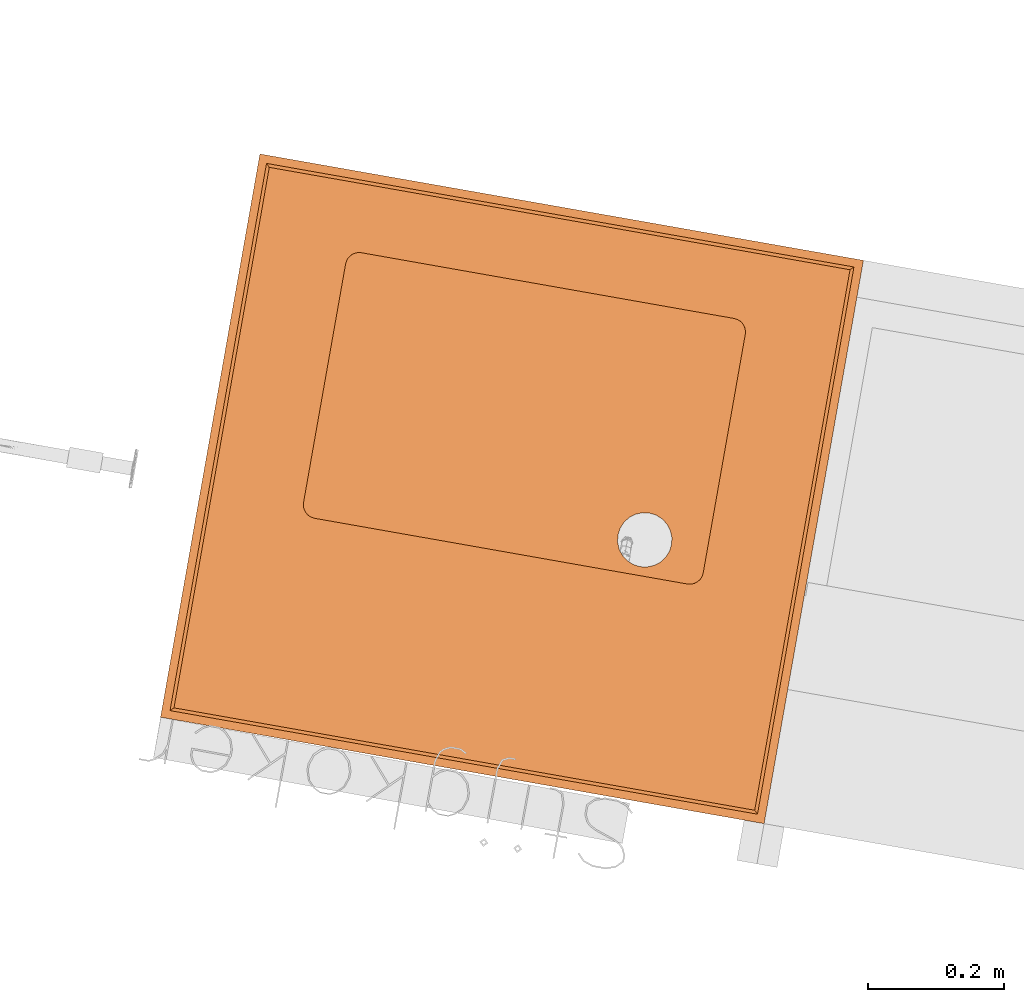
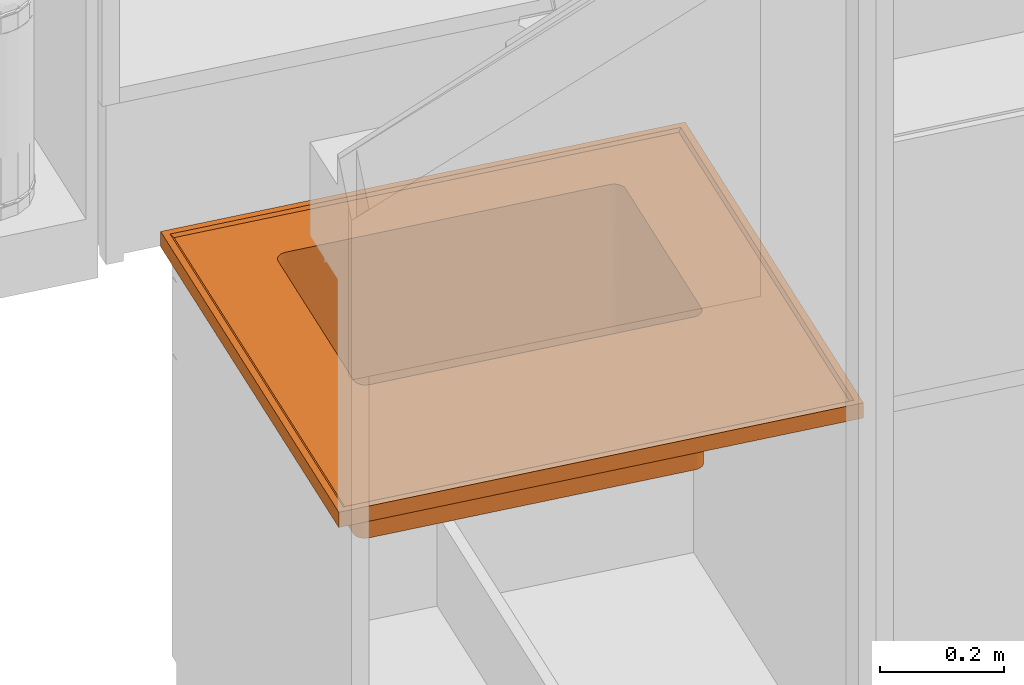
# One storey, part 34 of 43: 1 proxy.
"""IFC2X3 building model written with IfcOpenShell, lengths in metres."""

from ifc_helpers import new_model, entity, si_unit, converted_unit, derived_unit, direction, frame, origin, place, context, subcontext, project, spatial, faceted_brep, source, transform, mapped, material, type_object, type_shapes, element, save


model = new_model("IFC2X3")

# Units and contexts
model_context = context("Model", 3, precision=1e-05, world=origin(), true_north=direction((6.12303176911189e-17, 1.0)))
body_context = subcontext(model_context, "Body", "Model", "MODEL_VIEW")
ifc_project = project(units=[si_unit("LENGTHUNIT", "METRE"), si_unit("AREAUNIT", "SQUARE_METRE"), si_unit("VOLUMEUNIT", "CUBIC_METRE"), converted_unit("PLANEANGLEUNIT", "DEGREE", entity("IfcRatioMeasure", 0.0174532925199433), si_unit("PLANEANGLEUNIT", "RADIAN"), dimensions=[0, 0, 0, 0, 0, 0, 0]), si_unit("MASSUNIT", "GRAM", prefix="KILO"), derived_unit("MASSDENSITYUNIT", [(si_unit("MASSUNIT", "GRAM", prefix="KILO"), 1), (si_unit("LENGTHUNIT", "METRE"), -3)]), derived_unit("MOMENTOFINERTIAUNIT", [(si_unit("LENGTHUNIT", "METRE"), 4)]), si_unit("TIMEUNIT", "SECOND"), si_unit("FREQUENCYUNIT", "HERTZ"), si_unit("THERMODYNAMICTEMPERATUREUNIT", "DEGREE_CELSIUS"), derived_unit("THERMALTRANSMITTANCEUNIT", [(si_unit("MASSUNIT", "GRAM", prefix="KILO"), 1), (si_unit("THERMODYNAMICTEMPERATUREUNIT", "KELVIN"), -1), (si_unit("TIMEUNIT", "SECOND"), -3)]), derived_unit("VOLUMETRICFLOWRATEUNIT", [(si_unit("LENGTHUNIT", "METRE"), 3), (si_unit("TIMEUNIT", "SECOND"), -1)]), si_unit("ELECTRICCURRENTUNIT", "AMPERE"), si_unit("ELECTRICVOLTAGEUNIT", "VOLT"), si_unit("POWERUNIT", "WATT"), si_unit("FORCEUNIT", "NEWTON", prefix="KILO"), si_unit("ILLUMINANCEUNIT", "LUX"), si_unit("LUMINOUSFLUXUNIT", "LUMEN"), si_unit("LUMINOUSINTENSITYUNIT", "CANDELA"), derived_unit("USERDEFINED", [(si_unit("MASSUNIT", "GRAM", prefix="KILO"), -1), (si_unit("LENGTHUNIT", "METRE"), -2), (si_unit("TIMEUNIT", "SECOND"), 3), (si_unit("LUMINOUSFLUXUNIT", "LUMEN"), 1)]), derived_unit("LINEARVELOCITYUNIT", [(si_unit("LENGTHUNIT", "METRE"), 1), (si_unit("TIMEUNIT", "SECOND"), -1)]), si_unit("PRESSUREUNIT", "PASCAL"), derived_unit("USERDEFINED", [(si_unit("LENGTHUNIT", "METRE"), -2), (si_unit("MASSUNIT", "GRAM", prefix="KILO"), 1), (si_unit("TIMEUNIT", "SECOND"), -2)]), derived_unit("LINEARFORCEUNIT", [(si_unit("MASSUNIT", "GRAM", prefix="KILO"), 1), (si_unit("LENGTHUNIT", "METRE"), 1), (si_unit("TIMEUNIT", "SECOND"), -2), (si_unit("LENGTHUNIT", "METRE"), -1)]), derived_unit("PLANARFORCEUNIT", [(si_unit("MASSUNIT", "GRAM", prefix="KILO"), 1), (si_unit("LENGTHUNIT", "METRE"), 1), (si_unit("TIMEUNIT", "SECOND"), -2), (si_unit("LENGTHUNIT", "METRE"), -2)])], contexts=[model_context])

# Site, building, storey
site_placement = place(None, origin())
site = spatial("IfcSite", under=ifc_project, at=site_placement, Name="Default", CompositionType="ELEMENT")
building_placement = place(site_placement, origin())
building = spatial("IfcBuilding", under=site, at=building_placement, CompositionType="ELEMENT")
storey_placement = place(building_placement, frame((0.0, 0.0, 3.0)))
storey = spatial("IfcBuildingStorey", under=building, at=storey_placement, Name="01 OG", CompositionType="ELEMENT", Elevation=3.0)

# Proxy
ifc_material = material(Name="Steinzeug")
building_element_proxy_type = type_object("IfcBuildingElementProxyType", Name="dh_Tischplatte Steinzeug Becken:dh_Tischplatte Steinzeug Becken", PredefinedType="NOTDEFINED", material=ifc_material)
shared_shape = source(origin(), body_context, "Body", "Brep", [
    faceted_brep([(0.150681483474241, 0.50017638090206, 0.0), (0.155857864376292, 0.50914213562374, 0.0), (0.160000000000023, 0.512320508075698, 0.0), (0.152679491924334, 0.505000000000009, 0.0), (0.150000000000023, 0.495000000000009, 0.0), (0.164823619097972, 0.514318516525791, 0.0), (0.170000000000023, 0.515000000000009, 0.0), (0.206362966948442, 0.470352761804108, 0.0), (0.210358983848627, 0.480000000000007, 0.0), (0.216715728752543, 0.488284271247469, 0.0), (0.225000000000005, 0.494641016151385, 0.0), (0.234647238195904, 0.49863703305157, 0.0), (0.245000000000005, 0.500000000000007, 0.0), (0.255352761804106, 0.49863703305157, 0.0), (0.730000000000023, 0.515000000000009, 0.0), (0.265000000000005, 0.494641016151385, 0.0), (0.273284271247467, 0.488284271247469, 0.0), (0.279641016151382, 0.480000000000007, 0.0), (0.283637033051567, 0.470352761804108, 0.0), (0.285000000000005, 0.460000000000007, 0.0), (0.283637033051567, 0.449647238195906, 0.0), (0.279641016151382, 0.440000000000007, 0.0), (0.730000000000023, 0.11500000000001, 0.0), (0.750000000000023, 0.13500000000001, 0.0), (0.750000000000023, 0.495000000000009, 0.0), (0.735176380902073, 0.514318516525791, 0.0), (0.740000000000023, 0.512320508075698, 0.0), (0.749318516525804, 0.50017638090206, 0.0), (0.744142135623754, 0.50914213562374, 0.0), (0.747320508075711, 0.505000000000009, 0.0), (0.735176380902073, 0.115681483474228, 0.0), (0.740000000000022, 0.117679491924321, 0.0), (0.749318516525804, 0.129823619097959, 0.0), (0.744142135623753, 0.120857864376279, 0.0), (0.747320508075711, 0.125000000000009, 0.0), (0.273284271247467, 0.431715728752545, 0.0), (0.170000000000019, 0.115000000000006, 0.0), (0.265000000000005, 0.42535898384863, 0.0), (0.255352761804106, 0.421362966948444, 0.0), (0.150000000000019, 0.135000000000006, 0.0), (0.164823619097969, 0.115681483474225, 0.0), (0.160000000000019, 0.117679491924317, 0.0), (0.150681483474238, 0.129823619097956, 0.0), (0.155857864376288, 0.120857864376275, 0.0), (0.152679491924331, 0.125000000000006, 0.0), (0.210358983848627, 0.440000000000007, 0.0), (0.216715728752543, 0.431715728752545, 0.0), (0.225000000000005, 0.42535898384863, 0.0), (0.234647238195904, 0.421362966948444, 0.0), (0.245000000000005, 0.420000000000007, 0.0), (0.205000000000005, 0.460000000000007, 0.0), (0.206362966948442, 0.449647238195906, 0.0), (0.7453205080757, 0.503000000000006, 0.3), (0.747320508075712, 0.505000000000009, 0.3), (0.742142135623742, 0.507142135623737, 0.3), (0.749318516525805, 0.50017638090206, 0.3), (0.747318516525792, 0.498176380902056, 0.3), (0.750000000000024, 0.495000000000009, 0.3), (0.748000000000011, 0.493000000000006, 0.3), (0.748000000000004, 0.137000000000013, 0.3), (0.750000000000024, 0.13500000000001, 0.3), (0.747318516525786, 0.131823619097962, 0.3), (0.749318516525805, 0.129823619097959, 0.3), (0.745320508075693, 0.127000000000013, 0.3), (0.747320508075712, 0.125000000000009, 0.3), (0.742142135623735, 0.122857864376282, 0.3), (0.744142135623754, 0.120857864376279, 0.3), (0.740000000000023, 0.117679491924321, 0.3), (0.738000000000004, 0.119679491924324, 0.3), (0.735176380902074, 0.115681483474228, 0.3), (0.733176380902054, 0.117681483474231, 0.3), (0.730000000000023, 0.11500000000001, 0.3), (0.728000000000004, 0.117000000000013, 0.3), (0.172000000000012, 0.117000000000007, 0.300000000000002), (0.17000000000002, 0.115000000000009, 0.300000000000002), (0.166823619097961, 0.117681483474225, 0.300000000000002), (0.16482361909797, 0.115681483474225, 0.300000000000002), (0.162000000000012, 0.119679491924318, 0.300000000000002), (0.16000000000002, 0.117679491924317, 0.300000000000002), (0.157857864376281, 0.122857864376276, 0.300000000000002), (0.155857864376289, 0.120857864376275, 0.300000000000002), (0.152679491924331, 0.125000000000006, 0.300000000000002), (0.154679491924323, 0.127000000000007, 0.300000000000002), (0.150681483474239, 0.129823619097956, 0.300000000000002), (0.15268148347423, 0.131823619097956, 0.300000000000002), (0.15000000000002, 0.135000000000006, 0.300000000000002), (0.152000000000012, 0.137000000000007, 0.300000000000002), (0.150000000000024, 0.495000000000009, 0.300000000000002), (0.152000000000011, 0.493000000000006, 0.300000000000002), (0.15268148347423, 0.498176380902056, 0.300000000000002), (0.150681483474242, 0.50017638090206, 0.300000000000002), (0.154679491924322, 0.503000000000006, 0.300000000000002), (0.152679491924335, 0.505000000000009, 0.300000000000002), (0.15785786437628, 0.507142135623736, 0.300000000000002), (0.155857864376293, 0.50914213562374, 0.300000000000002), (0.160000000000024, 0.512320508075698, 0.300000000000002), (0.162000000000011, 0.510320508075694, 0.300000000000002), (0.164823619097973, 0.514318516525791, 0.300000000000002), (0.16682361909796, 0.512318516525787, 0.300000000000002), (0.170000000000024, 0.515000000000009, 0.300000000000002), (0.172000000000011, 0.513000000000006, 0.300000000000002), (0.730000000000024, 0.515000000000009, 0.3), (0.728000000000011, 0.513000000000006, 0.3), (0.733176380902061, 0.512318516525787, 0.3), (0.735176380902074, 0.514318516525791, 0.3), (0.738000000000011, 0.510320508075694, 0.3), (0.740000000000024, 0.512320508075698, 0.3), (0.744142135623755, 0.50914213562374, 0.3), (0.730000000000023, 0.515000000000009, 0.15000042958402), (0.170000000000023, 0.515000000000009, 0.150000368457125), (0.150000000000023, 0.49500000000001, 0.150000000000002), (0.15000000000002, 0.135000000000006, 0.150000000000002), (0.17000000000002, 0.115000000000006, 0.150000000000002), (0.730000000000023, 0.11500000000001, 0.15), (0.750000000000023, 0.135000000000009, 0.15), (0.750000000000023, 0.495000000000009, 0.15), (0.16200000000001, 0.510320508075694, 0.00500000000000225), (0.157857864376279, 0.507142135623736, 0.00500000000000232), (0.152681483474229, 0.498176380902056, 0.00500000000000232), (0.15200000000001, 0.493000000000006, 0.00500000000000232), (0.16682361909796, 0.512318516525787, 0.00500000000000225), (0.154679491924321, 0.503000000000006, 0.00500000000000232), (0.17200000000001, 0.513000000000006, 0.00500000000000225), (0.206362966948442, 0.470352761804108, 0.00500000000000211), (0.205000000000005, 0.460000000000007, 0.00500000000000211), (0.206362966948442, 0.449647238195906, 0.00500000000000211), (0.210358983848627, 0.440000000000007, 0.00500000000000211), (0.152000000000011, 0.137000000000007, 0.00500000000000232), (0.216715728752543, 0.431715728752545, 0.00500000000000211), (0.225000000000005, 0.42535898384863, 0.00500000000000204), (0.234647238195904, 0.421362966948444, 0.00500000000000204), (0.245000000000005, 0.420000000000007, 0.00500000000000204), (0.255352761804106, 0.421362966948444, 0.00500000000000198), (0.172000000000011, 0.117000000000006, 0.00500000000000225), (0.16682361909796, 0.117681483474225, 0.00500000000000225), (0.162000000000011, 0.119679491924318, 0.00500000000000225), (0.152681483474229, 0.131823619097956, 0.00500000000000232), (0.15785786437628, 0.122857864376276, 0.00500000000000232), (0.154679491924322, 0.127000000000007, 0.00500000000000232), (0.265000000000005, 0.42535898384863, 0.00500000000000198), (0.273284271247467, 0.431715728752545, 0.00500000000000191), (0.728000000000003, 0.117000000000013, 0.00500000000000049), (0.279641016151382, 0.440000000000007, 0.00500000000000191), (0.72800000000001, 0.513000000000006, 0.00500000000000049), (0.74800000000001, 0.137000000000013, 0.00500000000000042), (0.733176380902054, 0.117681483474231, 0.00500000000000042), (0.738000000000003, 0.119679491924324, 0.00500000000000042), (0.747318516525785, 0.131823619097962, 0.00500000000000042), (0.742142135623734, 0.122857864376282, 0.00500000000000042), (0.745320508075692, 0.127000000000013, 0.00500000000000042), (0.74800000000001, 0.493000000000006, 0.00500000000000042), (0.733176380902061, 0.512318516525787, 0.00500000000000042), (0.73800000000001, 0.510320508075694, 0.00500000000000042), (0.747318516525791, 0.498176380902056, 0.00500000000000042), (0.742142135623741, 0.507142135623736, 0.00500000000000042), (0.745320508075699, 0.503000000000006, 0.00500000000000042), (0.255352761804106, 0.49863703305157, 0.00500000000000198), (0.265000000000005, 0.494641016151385, 0.00500000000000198), (0.273284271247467, 0.488284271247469, 0.00500000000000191), (0.279641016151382, 0.480000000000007, 0.00500000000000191), (0.283637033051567, 0.470352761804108, 0.00500000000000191), (0.285000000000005, 0.460000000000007, 0.00500000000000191), (0.283637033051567, 0.449647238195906, 0.00500000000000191), (0.210358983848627, 0.480000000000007, 0.00500000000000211), (0.216715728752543, 0.488284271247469, 0.00500000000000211), (0.225000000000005, 0.494641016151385, 0.00500000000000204), (0.234647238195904, 0.49863703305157, 0.00500000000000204), (0.245000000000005, 0.500000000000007, 0.00500000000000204), (0.172000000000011, 0.513000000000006, 0.152499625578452), (0.728000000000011, 0.513000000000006, 0.1525), (0.152000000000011, 0.137000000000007, 0.152500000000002), (0.15200000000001, 0.493000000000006, 0.152500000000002), (0.728000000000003, 0.117000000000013, 0.1525), (0.172000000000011, 0.117000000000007, 0.152500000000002), (0.74800000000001, 0.493000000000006, 0.1525), (0.748000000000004, 0.137000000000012, 0.1525), (0.164346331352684, 0.511477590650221, 0.152499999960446), (0.153522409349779, 0.500653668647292, 0.152499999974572), (0.152384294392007, 0.496901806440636, 0.18766218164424), (0.168098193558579, 0.51261570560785, 0.117337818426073), (0.159824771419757, 0.50886706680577, 0.136631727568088), (0.156132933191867, 0.505175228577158, 0.168368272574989), (0.15352240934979, 0.129346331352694, 0.15249999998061), (0.164346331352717, 0.118522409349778, 0.152499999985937), (0.168098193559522, 0.117384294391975, 0.187662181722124), (0.152384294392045, 0.133098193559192, 0.117337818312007), (0.156132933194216, 0.124824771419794, 0.136631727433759), (0.159824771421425, 0.121132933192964, 0.168368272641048), (0.735653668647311, 0.11852240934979, 0.152499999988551), (0.746477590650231, 0.129346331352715, 0.1524999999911), (0.747615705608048, 0.133098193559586, 0.187662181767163), (0.731901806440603, 0.117384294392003, 0.117337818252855), (0.740175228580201, 0.121132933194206, 0.136631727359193), (0.743867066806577, 0.124824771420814, 0.168368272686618), (0.746477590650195, 0.500653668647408, 0.152499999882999), (0.735653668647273, 0.511477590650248, 0.152499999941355), (0.731901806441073, 0.512615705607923, 0.187662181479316), (0.747615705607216, 0.496901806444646, 0.117337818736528), (0.743867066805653, 0.505175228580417, 0.136631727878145), (0.740175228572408, 0.508867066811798, 0.168368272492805), (0.162346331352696, 0.513477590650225, 0.149999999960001), (0.150384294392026, 0.498901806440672, 0.187055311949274), (0.151522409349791, 0.502653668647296, 0.14999999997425), (0.16609819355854, 0.514615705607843, 0.112944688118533), (0.157824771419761, 0.510867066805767, 0.13191703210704), (0.154132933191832, 0.5071752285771, 0.16808296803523), (0.151522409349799, 0.127346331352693, 0.149999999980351), (0.166098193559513, 0.115384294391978, 0.187055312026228), (0.162346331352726, 0.116522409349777, 0.149999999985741), (0.150384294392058, 0.131098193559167, 0.112944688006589), (0.154132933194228, 0.122824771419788, 0.13191703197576), (0.157824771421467, 0.119132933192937, 0.16808296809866), (0.737653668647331, 0.116522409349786, 0.149999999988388), (0.749615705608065, 0.131098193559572, 0.187055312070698), (0.748477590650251, 0.127346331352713, 0.14999999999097), (0.733901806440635, 0.115384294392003, 0.112944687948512), (0.742175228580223, 0.119132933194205, 0.131917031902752), (0.745867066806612, 0.122824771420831, 0.168082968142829), (0.748477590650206, 0.502653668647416, 0.149999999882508), (0.733901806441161, 0.514615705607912, 0.187055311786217), (0.737653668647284, 0.513477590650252, 0.149999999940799), (0.749615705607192, 0.498901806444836, 0.112944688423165), (0.745867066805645, 0.507175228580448, 0.131917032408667), (0.742175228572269, 0.510867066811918, 0.168082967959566)], [[[0, 1, 2]], [[0, 3, 1]], [[0, 2, 4]], [[4, 2, 5]], [[5, 6, 4]], [[6, 7, 4]], [[8, 7, 6]], [[8, 6, 9]], [[10, 9, 6]], [[6, 11, 10]], [[6, 12, 11]], [[12, 6, 13]], [[13, 6, 14]], [[15, 13, 14]], [[16, 15, 14]], [[16, 14, 17]], [[18, 17, 14]], [[19, 18, 14]], [[19, 14, 20]], [[20, 14, 21]], [[22, 21, 14]], [[23, 22, 14]], [[23, 14, 24]], [[24, 14, 25]], [[24, 25, 26]], [[24, 26, 27]], [[27, 26, 28]], [[28, 29, 27]], [[22, 23, 30]], [[31, 30, 23]], [[32, 31, 23]], [[33, 31, 32]], [[33, 32, 34]], [[35, 21, 22]], [[22, 36, 35]], [[35, 36, 37]], [[37, 36, 38]], [[39, 38, 36]], [[39, 36, 40]], [[41, 39, 40]], [[41, 42, 39]], [[42, 41, 43]], [[42, 43, 44]], [[39, 4, 45]], [[46, 39, 45]], [[39, 46, 47]], [[47, 48, 39]], [[49, 39, 48]], [[38, 39, 49]], [[4, 7, 50]], [[4, 50, 51]], [[4, 51, 45]], [[52, 53, 54]], [[53, 52, 55]], [[55, 52, 56]], [[57, 55, 56]], [[56, 58, 57]], [[57, 58, 59]], [[59, 60, 57]], [[60, 59, 61]], [[60, 61, 62]], [[62, 61, 63]], [[64, 62, 63]], [[65, 64, 63]], [[64, 65, 66]], [[65, 67, 66]], [[65, 68, 67]], [[67, 68, 69]], [[68, 70, 69]], [[71, 69, 70]], [[72, 71, 70]], [[71, 72, 73]], [[73, 74, 71]], [[73, 75, 74]], [[74, 75, 76]], [[75, 77, 76]], [[77, 78, 76]], [[77, 79, 78]], [[79, 80, 78]], [[79, 81, 80]], [[81, 79, 82]], [[83, 81, 82]], [[82, 84, 83]], [[84, 85, 83]], [[84, 86, 85]], [[85, 86, 87]], [[88, 87, 86]], [[88, 89, 87]], [[90, 87, 89]], [[89, 91, 90]], [[91, 92, 90]], [[92, 91, 93]], [[92, 93, 94]], [[93, 95, 94]], [[95, 93, 96]], [[97, 95, 96]], [[98, 97, 96]], [[98, 99, 97]], [[98, 100, 99]], [[99, 100, 101]], [[102, 101, 100]], [[103, 101, 102]], [[103, 104, 101]], [[104, 103, 105]], [[54, 106, 105]], [[105, 106, 104]], [[54, 53, 107]], [[106, 54, 107]], [[99, 101, 108, 14, 6, 109]], [[87, 110, 4, 39, 111, 85]], [[74, 112, 36, 22, 113, 71]], [[60, 114, 23, 24, 115, 57]], [[116, 117, 118]], [[119, 116, 118]], [[120, 116, 119]], [[117, 121, 118]], [[119, 122, 120]], [[119, 123, 122]], [[124, 123, 119]], [[125, 124, 119]], [[126, 125, 119]], [[126, 119, 127]], [[126, 127, 128]], [[129, 128, 127]], [[127, 130, 129]], [[130, 127, 131]], [[131, 127, 132]], [[133, 132, 127]], [[134, 133, 127]], [[134, 127, 135]], [[127, 136, 135]], [[137, 135, 136]], [[138, 137, 136]], [[132, 133, 139]], [[139, 133, 140]], [[140, 133, 141]], [[141, 142, 140]], [[143, 142, 141]], [[143, 141, 144]], [[145, 144, 141]], [[144, 145, 146]], [[144, 146, 147]], [[147, 146, 148]], [[149, 147, 148]], [[150, 143, 144]], [[151, 143, 150]], [[152, 151, 150]], [[153, 152, 150]], [[154, 152, 153]], [[153, 155, 154]], [[143, 122, 156]], [[143, 156, 157]], [[143, 157, 158]], [[159, 143, 158]], [[143, 159, 160]], [[143, 160, 161]], [[162, 143, 161]], [[142, 143, 162]], [[122, 123, 163]], [[164, 122, 163]], [[122, 164, 165]], [[165, 166, 122]], [[166, 167, 122]], [[156, 122, 167]], [[100, 168, 122, 143, 169, 102]], [[86, 170, 127, 119, 171, 88]], [[72, 172, 141, 133, 173, 73]], [[58, 174, 150, 144, 175, 59]], [[19, 161, 160, 18]], [[18, 160, 159, 17]], [[15, 16, 158, 157]], [[158, 16, 17, 159]], [[13, 15, 157, 156]], [[13, 156, 167, 12]], [[12, 167, 166, 11]], [[11, 166, 165, 10]], [[8, 9, 164, 163]], [[164, 9, 10, 165]], [[7, 8, 163, 123]], [[7, 123, 124, 50]], [[50, 124, 125, 51]], [[51, 125, 126, 45]], [[47, 46, 128, 129]], [[128, 46, 45, 126]], [[48, 47, 129, 130]], [[48, 130, 131, 49]], [[49, 131, 132, 38]], [[38, 132, 139, 37]], [[21, 35, 140, 142]], [[140, 35, 37, 139]], [[20, 21, 142, 162]], [[20, 162, 161, 19]], [[116, 120, 176]], [[177, 178, 118]], [[168, 179, 122]], [[116, 176, 180]], [[180, 117, 116]], [[176, 120, 179]], [[89, 88, 178]], [[100, 98, 168]], [[176, 98, 96]], [[122, 179, 120]], [[180, 176, 96]], [[171, 178, 88]], [[118, 121, 177]], [[117, 180, 181]], [[181, 180, 93]], [[171, 119, 118]], [[181, 121, 117]], [[91, 177, 181]], [[98, 179, 168]], [[91, 89, 177]], [[89, 178, 177]], [[93, 180, 96]], [[118, 178, 171]], [[181, 177, 121]], [[176, 179, 98]], [[93, 91, 181]], [[138, 136, 182]], [[183, 184, 134]], [[170, 185, 127]], [[138, 182, 186]], [[186, 137, 138]], [[182, 136, 185]], [[75, 73, 184]], [[86, 84, 170]], [[182, 84, 82]], [[127, 185, 136]], [[186, 182, 82]], [[173, 184, 73]], [[134, 135, 183]], [[137, 186, 187]], [[187, 186, 79]], [[173, 133, 134]], [[187, 135, 137]], [[77, 183, 187]], [[84, 185, 170]], [[77, 75, 183]], [[75, 184, 183]], [[79, 186, 82]], [[134, 184, 173]], [[187, 183, 135]], [[182, 185, 84]], [[79, 77, 187]], [[146, 145, 188]], [[189, 190, 147]], [[172, 191, 141]], [[146, 188, 192]], [[192, 148, 146]], [[188, 145, 191]], [[61, 59, 190]], [[72, 70, 172]], [[188, 70, 68]], [[141, 191, 145]], [[192, 188, 68]], [[175, 190, 59]], [[147, 149, 189]], [[148, 192, 193]], [[193, 192, 65]], [[175, 144, 147]], [[193, 149, 148]], [[63, 189, 193]], [[70, 191, 172]], [[63, 61, 189]], [[61, 190, 189]], [[65, 192, 68]], [[147, 190, 175]], [[193, 189, 149]], [[188, 191, 70]], [[65, 63, 193]], [[155, 153, 194]], [[195, 196, 151]], [[174, 197, 150]], [[155, 194, 198]], [[198, 154, 155]], [[194, 153, 197]], [[103, 102, 196]], [[58, 56, 174]], [[194, 56, 52]], [[150, 197, 153]], [[198, 194, 52]], [[169, 196, 102]], [[151, 152, 195]], [[154, 198, 199]], [[199, 198, 54]], [[169, 143, 151]], [[199, 152, 154]], [[105, 195, 199]], [[56, 197, 174]], [[105, 103, 195]], [[103, 196, 195]], [[54, 198, 52]], [[151, 196, 169]], [[199, 195, 152]], [[194, 197, 56]], [[54, 105, 199]], [[200, 5, 2]], [[0, 201, 202]], [[6, 203, 109]], [[204, 200, 2]], [[2, 1, 204]], [[203, 5, 200]], [[201, 87, 90]], [[109, 97, 99]], [[95, 97, 200]], [[5, 203, 6]], [[95, 200, 204]], [[87, 201, 110]], [[202, 3, 0]], [[205, 204, 1]], [[94, 204, 205]], [[0, 4, 110]], [[1, 3, 205]], [[205, 202, 92]], [[109, 203, 97]], [[202, 90, 92]], [[202, 201, 90]], [[95, 204, 94]], [[110, 201, 0]], [[3, 202, 205]], [[97, 203, 200]], [[205, 92, 94]], [[206, 42, 44]], [[40, 207, 208]], [[39, 209, 111]], [[210, 206, 44]], [[44, 43, 210]], [[209, 42, 206]], [[207, 74, 76]], [[111, 83, 85]], [[81, 83, 206]], [[42, 209, 39]], [[81, 206, 210]], [[74, 207, 112]], [[208, 41, 40]], [[211, 210, 43]], [[80, 210, 211]], [[40, 36, 112]], [[43, 41, 211]], [[211, 208, 78]], [[111, 209, 83]], [[208, 76, 78]], [[208, 207, 76]], [[81, 210, 80]], [[112, 207, 40]], [[41, 208, 211]], [[83, 209, 206]], [[211, 78, 80]], [[212, 30, 31]], [[32, 213, 214]], [[22, 215, 113]], [[216, 212, 31]], [[31, 33, 216]], [[215, 30, 212]], [[213, 60, 62]], [[113, 69, 71]], [[67, 69, 212]], [[30, 215, 22]], [[67, 212, 216]], [[60, 213, 114]], [[214, 34, 32]], [[217, 216, 33]], [[66, 216, 217]], [[32, 23, 114]], [[33, 34, 217]], [[217, 214, 64]], [[113, 215, 69]], [[214, 62, 64]], [[214, 213, 62]], [[67, 216, 66]], [[114, 213, 32]], [[34, 214, 217]], [[69, 215, 212]], [[217, 64, 66]], [[218, 27, 29]], [[25, 219, 220]], [[24, 221, 115]], [[222, 218, 29]], [[29, 28, 222]], [[221, 27, 218]], [[219, 101, 104]], [[115, 55, 57]], [[53, 55, 218]], [[27, 221, 24]], [[53, 218, 222]], [[101, 219, 108]], [[220, 26, 25]], [[223, 222, 28]], [[107, 222, 223]], [[25, 14, 108]], [[28, 26, 223]], [[223, 220, 106]], [[115, 221, 55]], [[220, 104, 106]], [[220, 219, 104]], [[53, 222, 107]], [[108, 219, 25]], [[26, 220, 223]], [[55, 221, 218]], [[223, 106, 107]]]),
    faceted_brep([(0.883000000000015, 0.823000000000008, 0.3), (0.745320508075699, 0.503000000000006, 0.3), (0.747318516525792, 0.498176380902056, 0.3), (0.742142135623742, 0.507142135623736, 0.300000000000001), (0.748000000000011, 0.493000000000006, 0.3), (0.883000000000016, 0.017000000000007, 0.3), (0.738000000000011, 0.510320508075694, 0.300000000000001), (0.733176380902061, 0.512318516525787, 0.300000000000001), (0.728000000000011, 0.513000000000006, 0.300000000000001), (0.172000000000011, 0.513000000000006, 0.300000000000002), (0.0170000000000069, 0.823000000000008, 0.300000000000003), (0.16682361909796, 0.512318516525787, 0.300000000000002), (0.162000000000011, 0.510320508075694, 0.300000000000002), (0.15785786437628, 0.507142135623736, 0.300000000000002), (0.154679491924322, 0.503000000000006, 0.300000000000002), (0.15268148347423, 0.498176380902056, 0.300000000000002), (0.152000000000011, 0.493000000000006, 0.300000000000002), (0.017000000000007, 0.017000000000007, 0.300000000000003), (0.152000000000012, 0.137000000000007, 0.300000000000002), (0.15268148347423, 0.131823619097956, 0.300000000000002), (0.154679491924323, 0.127000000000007, 0.300000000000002), (0.157857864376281, 0.122857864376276, 0.300000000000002), (0.162000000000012, 0.119679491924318, 0.300000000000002), (0.166823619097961, 0.117681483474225, 0.300000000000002), (0.172000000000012, 0.117000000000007, 0.300000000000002), (0.748000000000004, 0.137000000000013, 0.3), (0.747318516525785, 0.131823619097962, 0.3), (0.745320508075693, 0.127000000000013, 0.3), (0.742142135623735, 0.122857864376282, 0.300000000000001), (0.738000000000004, 0.119679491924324, 0.300000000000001), (0.733176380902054, 0.117681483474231, 0.300000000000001), (0.728000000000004, 0.117000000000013, 0.300000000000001), (0.0, 0.840000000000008, 0.275000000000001), (0.154679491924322, 0.503000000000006, 0.275000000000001), (0.152681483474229, 0.498176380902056, 0.275000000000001), (0.15785786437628, 0.507142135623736, 0.275000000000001), (0.152000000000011, 0.493000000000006, 0.275000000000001), (0.0, 0.0, 0.275000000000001), (0.162000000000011, 0.510320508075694, 0.275000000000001), (0.16682361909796, 0.512318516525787, 0.275000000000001), (0.172000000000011, 0.513000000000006, 0.275000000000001), (0.728000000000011, 0.513000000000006, 0.274999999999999), (0.900000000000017, 0.840000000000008, 0.274999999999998), (0.733176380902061, 0.512318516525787, 0.274999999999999), (0.738000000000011, 0.510320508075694, 0.274999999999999), (0.742142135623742, 0.507142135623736, 0.274999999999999), (0.745320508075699, 0.503000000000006, 0.274999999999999), (0.747318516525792, 0.498176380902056, 0.274999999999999), (0.748000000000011, 0.493000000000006, 0.274999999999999), (0.900000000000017, 0.0, 0.274999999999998), (0.748000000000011, 0.137000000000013, 0.274999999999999), (0.747318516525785, 0.131823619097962, 0.274999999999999), (0.745320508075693, 0.127000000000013, 0.274999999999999), (0.742142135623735, 0.122857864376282, 0.274999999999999), (0.738000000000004, 0.119679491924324, 0.274999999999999), (0.733176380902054, 0.117681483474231, 0.274999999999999), (0.728000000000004, 0.117000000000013, 0.274999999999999), (0.152000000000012, 0.137000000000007, 0.275000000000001), (0.15268148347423, 0.131823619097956, 0.275000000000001), (0.154679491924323, 0.127000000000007, 0.275000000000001), (0.157857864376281, 0.122857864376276, 0.275000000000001), (0.162000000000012, 0.119679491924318, 0.275000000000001), (0.166823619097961, 0.117681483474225, 0.275000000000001), (0.172000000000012, 0.117000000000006, 0.275000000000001), (0.0, 0.840000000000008, 0.305000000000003), (0.900000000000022, 0.840000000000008, 0.305), (0.0, 0.0, 0.305000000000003), (0.900000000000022, 0.0, 0.305), (0.0120000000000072, 0.828000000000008, 0.305000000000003), (0.888000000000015, 0.828000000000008, 0.305), (0.888000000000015, 0.0120000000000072, 0.305), (0.0120000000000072, 0.012000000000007, 0.305000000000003)], [[[0, 1, 2]], [[1, 0, 3]], [[2, 4, 0]], [[0, 4, 5]], [[6, 3, 0]], [[7, 6, 0]], [[8, 7, 0]], [[0, 9, 8]], [[9, 0, 10]], [[11, 9, 10]], [[11, 10, 12]], [[13, 12, 10]], [[10, 14, 13]], [[14, 10, 15]], [[16, 15, 10]], [[10, 17, 16]], [[18, 16, 17]], [[19, 18, 17]], [[17, 20, 19]], [[20, 17, 21]], [[22, 21, 17]], [[22, 17, 23]], [[24, 23, 17]], [[24, 17, 5]], [[25, 5, 4]], [[25, 26, 5]], [[27, 5, 26]], [[5, 27, 28]], [[28, 29, 5]], [[29, 30, 5]], [[30, 31, 5]], [[5, 31, 24]], [[32, 33, 34]], [[33, 32, 35]], [[34, 36, 32]], [[32, 36, 37]], [[38, 35, 32]], [[39, 38, 32]], [[40, 39, 32]], [[32, 41, 40]], [[41, 32, 42]], [[43, 41, 42]], [[43, 42, 44]], [[45, 44, 42]], [[42, 46, 45]], [[46, 42, 47]], [[48, 47, 42]], [[42, 49, 48]], [[50, 48, 49]], [[51, 50, 49]], [[49, 52, 51]], [[52, 49, 53]], [[54, 53, 49]], [[54, 49, 55]], [[56, 55, 49]], [[56, 49, 37]], [[57, 37, 36]], [[57, 58, 37]], [[59, 37, 58]], [[37, 59, 60]], [[60, 61, 37]], [[61, 62, 37]], [[62, 63, 37]], [[37, 63, 56]], [[64, 65, 42, 32]], [[66, 64, 32, 37]], [[67, 66, 37, 49]], [[65, 67, 49, 42]], [[68, 10, 0, 69]], [[69, 0, 5, 70]], [[70, 5, 17, 71]], [[71, 17, 10, 68]], [[67, 70, 71]], [[70, 67, 69]], [[71, 66, 67]], [[65, 69, 67]], [[69, 65, 68]], [[64, 68, 65]], [[68, 64, 66]], [[66, 71, 68]], [[41, 8, 9, 40]], [[36, 16, 18, 57]], [[56, 63, 24, 31]], [[50, 25, 4, 48]], [[39, 40, 9, 11]], [[38, 39, 11, 12]], [[38, 12, 13, 35]], [[33, 35, 13, 14]], [[34, 33, 14, 15]], [[15, 16, 36, 34]], [[58, 57, 18, 19]], [[59, 58, 19, 20]], [[59, 20, 21, 60]], [[62, 61, 22, 23]], [[63, 62, 23, 24]], [[21, 22, 61, 60]], [[55, 56, 31, 30]], [[54, 55, 30, 29]], [[54, 29, 28, 53]], [[51, 52, 27, 26]], [[50, 51, 26, 25]], [[28, 27, 52, 53]], [[47, 48, 4, 2]], [[46, 47, 2, 1]], [[46, 1, 3, 45]], [[44, 45, 3, 6]], [[43, 44, 6, 7]], [[7, 8, 41, 43]]]),
])
type_shapes(building_element_proxy_type, [shared_shape])
proxy_placement = place(storey_placement, frame((27.7875434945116, 14.1363671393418, 0.594999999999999), z_axis=(0.0, 0.0, 1.0), x_axis=(-0.984807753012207, 0.173648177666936, 0.0)))
element("IfcBuildingElementProxy", 1, at=proxy_placement, inside=storey, type_object=building_element_proxy_type, material=ifc_material, Name="dh_Tischplatte Steinzeug Becken:dh_Tischplatte Steinzeug Becken", ObjectType="dh_Tischplatte Steinzeug Becken:dh_Tischplatte Steinzeug Becken", context=body_context, shape_type="MappedRepresentation", body=[
    mapped(shared_shape, transform((0.0, 0.0, 0.0), scale=1.0)),
])

save(model, "model.ifc")
